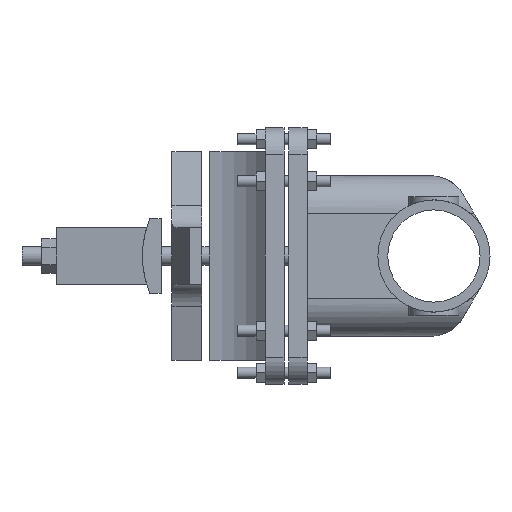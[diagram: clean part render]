
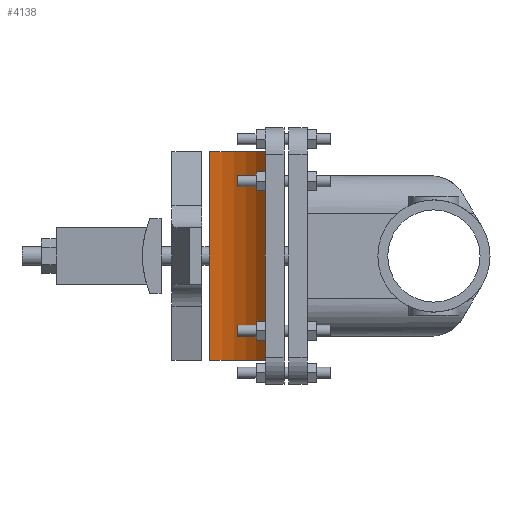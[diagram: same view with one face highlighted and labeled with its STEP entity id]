
A CAD part, left-side view. The second image highlights one B-rep face of the part: STEP entity #4138.
In plain terms, the highlighted cylindrical face has radius 50.8 mm (diameter 101.6 mm), a partial arc.
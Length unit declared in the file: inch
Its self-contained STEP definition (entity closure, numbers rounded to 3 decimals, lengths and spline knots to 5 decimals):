
#93=CYLINDRICAL_SURFACE('',#4403,2.);
#211=CIRCLE('',#4404,2.);
#212=CIRCLE('',#4405,2.);
#366=FACE_OUTER_BOUND('',#593,.T.);
#593=EDGE_LOOP('',(#2827,#2828,#2829,#2830));
#939=LINE('',#6282,#1345);
#940=LINE('',#6285,#1346);
#1345=VECTOR('',#4984,0.3937);
#1346=VECTOR('',#4987,0.3937);
#1739=VERTEX_POINT('',#6278);
#1740=VERTEX_POINT('',#6279);
#1741=VERTEX_POINT('',#6281);
#1742=VERTEX_POINT('',#6283);
#2172=EDGE_CURVE('',#1739,#1740,#211,.F.);
#2173=EDGE_CURVE('',#1741,#1739,#939,.T.);
#2174=EDGE_CURVE('',#1741,#1742,#212,.T.);
#2175=EDGE_CURVE('',#1740,#1742,#940,.T.);
#2827=ORIENTED_EDGE('',*,*,#2172,.F.);
#2828=ORIENTED_EDGE('',*,*,#2173,.F.);
#2829=ORIENTED_EDGE('',*,*,#2174,.T.);
#2830=ORIENTED_EDGE('',*,*,#2175,.F.);
#4138=ADVANCED_FACE('',(#366),#93,.F.);
#4403=AXIS2_PLACEMENT_3D('',#6277,#4980,#4981);
#4404=AXIS2_PLACEMENT_3D('',#6280,#4982,#4983);
#4405=AXIS2_PLACEMENT_3D('',#6284,#4985,#4986);
#4980=DIRECTION('center_axis',(0.,0.,-1.));
#4981=DIRECTION('ref_axis',(1.,-0.031,0.));
#4982=DIRECTION('center_axis',(0.,0.,-1.));
#4983=DIRECTION('ref_axis',(1.,-0.031,0.));
#4984=DIRECTION('',(0.,0.,-1.));
#4985=DIRECTION('center_axis',(0.,0.,1.));
#4986=DIRECTION('ref_axis',(1.,-0.031,0.));
#4987=DIRECTION('',(0.,0.,1.));
#6277=CARTESIAN_POINT('Origin',(-2.99904,6.07202,0.));
#6278=CARTESIAN_POINT('',(-1.75,4.51,-2.795));
#6279=CARTESIAN_POINT('',(-1.,6.01,-2.795));
#6280=CARTESIAN_POINT('Origin',(-2.99904,6.07202,-2.795));
#6281=CARTESIAN_POINT('',(-1.75,4.51,2.795));
#6282=CARTESIAN_POINT('',(-1.75,4.51,0.));
#6283=CARTESIAN_POINT('',(-1.,6.01,2.795));
#6284=CARTESIAN_POINT('Origin',(-2.99904,6.07202,2.795));
#6285=CARTESIAN_POINT('',(-1.,6.01,0.));
